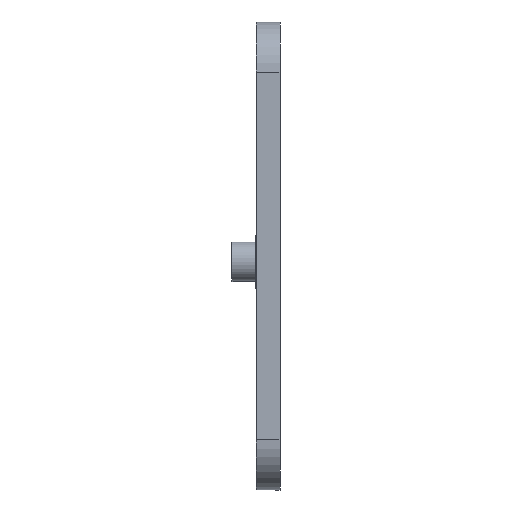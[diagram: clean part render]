
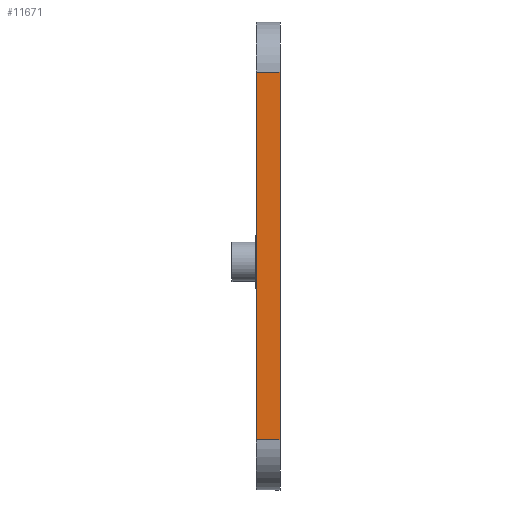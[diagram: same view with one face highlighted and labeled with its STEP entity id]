
A CAD part, left-side view. The second image highlights one B-rep face of the part: STEP entity #11671.
In plain terms, the highlighted planar face has unit normal (-1, 0, 0).
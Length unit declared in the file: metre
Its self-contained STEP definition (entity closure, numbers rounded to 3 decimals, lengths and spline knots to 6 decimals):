
#252=LINE('',#18477,#1358);
#1144=LINE('',#20399,#2250);
#1145=LINE('',#20403,#2251);
#1146=LINE('',#20405,#2252);
#1358=VECTOR('',#15297,1.);
#2250=VECTOR('',#16945,1.);
#2251=VECTOR('',#16950,1.);
#2252=VECTOR('',#16951,1.);
#4167=ORIENTED_EDGE('',*,*,#6622,.F.);
#4168=ORIENTED_EDGE('',*,*,#5677,.T.);
#4169=ORIENTED_EDGE('',*,*,#6624,.T.);
#4170=ORIENTED_EDGE('',*,*,#6625,.F.);
#5677=EDGE_CURVE('',#7205,#7204,#252,.T.);
#6622=EDGE_CURVE('',#7205,#7857,#1144,.T.);
#6624=EDGE_CURVE('',#7204,#7858,#1145,.T.);
#6625=EDGE_CURVE('',#7857,#7858,#1146,.T.);
#7204=VERTEX_POINT('',#18476);
#7205=VERTEX_POINT('',#18478);
#7857=VERTEX_POINT('',#20400);
#7858=VERTEX_POINT('',#20404);
#9020=EDGE_LOOP('',(#4167,#4168,#4169,#4170));
#10064=FACE_BOUND('',#9020,.T.);
#10930=PLANE('',#14455);
#11671=ADVANCED_FACE('',(#10064),#10930,.T.);
#14455=AXIS2_PLACEMENT_3D('',#20402,#16948,#16949);
#15297=DIRECTION('',(0.,0.,1.));
#16945=DIRECTION('',(0.,1.,0.));
#16948=DIRECTION('',(-1.,0.,0.));
#16949=DIRECTION('',(0.,0.,1.));
#16950=DIRECTION('',(0.,1.,0.));
#16951=DIRECTION('',(0.,0.,1.));
#18476=CARTESIAN_POINT('',(0.0635,-0.0001,-0.010795));
#18477=CARTESIAN_POINT('',(0.0635,-0.0001,-0.024765));
#18478=CARTESIAN_POINT('',(0.0635,-0.0001,-0.024765));
#20399=CARTESIAN_POINT('',(0.0635,-0.0001,-0.024765));
#20400=CARTESIAN_POINT('',(0.0635,0.000805,-0.024765));
#20402=CARTESIAN_POINT('',(0.0635,0.,-0.024765));
#20403=CARTESIAN_POINT('',(0.0635,-0.0001,-0.010795));
#20404=CARTESIAN_POINT('',(0.0635,0.000805,-0.010795));
#20405=CARTESIAN_POINT('',(0.0635,0.000805,-0.024765));
